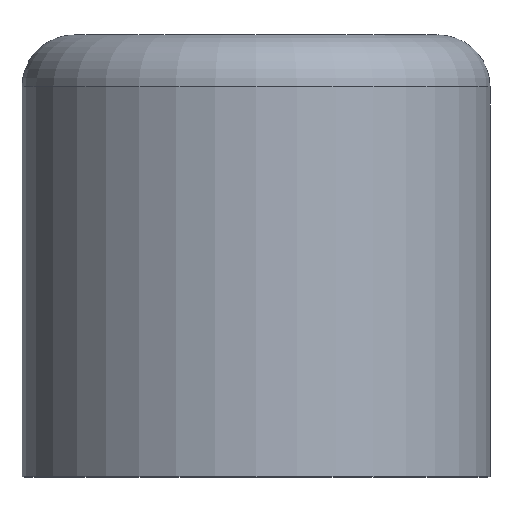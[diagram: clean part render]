
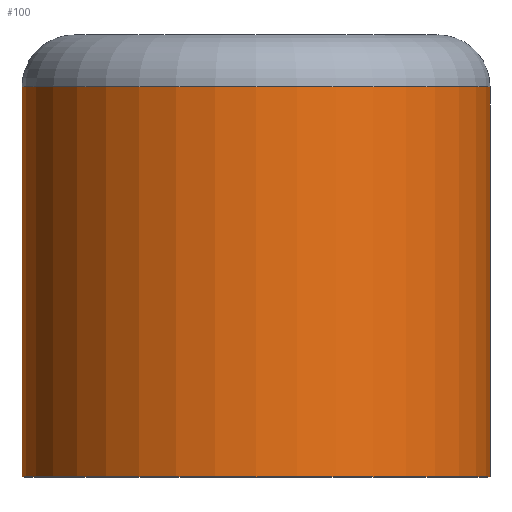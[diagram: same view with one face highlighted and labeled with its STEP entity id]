
A CAD part, top view. The second image highlights one B-rep face of the part: STEP entity #100.
In plain terms, the highlighted cylindrical face has radius 9 mm (diameter 18 mm), a full revolution.
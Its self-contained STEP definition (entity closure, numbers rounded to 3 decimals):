
#18=LINE('',#195,#21);
#21=VECTOR('',#166,9.);
#24=CYLINDRICAL_SURFACE('',#134,9.);
#32=FACE_OUTER_BOUND('',#40,.T.);
#40=EDGE_LOOP('',(#85,#86,#87,#88));
#51=CIRCLE('',#133,9.);
#52=CIRCLE('',#135,9.);
#58=VERTEX_POINT('',#190);
#59=VERTEX_POINT('',#194);
#68=EDGE_CURVE('',#58,#58,#51,.T.);
#69=EDGE_CURVE('',#58,#59,#18,.T.);
#70=EDGE_CURVE('',#59,#59,#52,.T.);
#85=ORIENTED_EDGE('',*,*,#68,.F.);
#86=ORIENTED_EDGE('',*,*,#69,.T.);
#87=ORIENTED_EDGE('',*,*,#70,.T.);
#88=ORIENTED_EDGE('',*,*,#69,.F.);
#100=ADVANCED_FACE('',(#32),#24,.T.);
#133=AXIS2_PLACEMENT_3D('',#192,#162,#163);
#134=AXIS2_PLACEMENT_3D('',#193,#164,#165);
#135=AXIS2_PLACEMENT_3D('',#196,#167,#168);
#162=DIRECTION('center_axis',(0.,1.,0.));
#163=DIRECTION('ref_axis',(0.,0.,-1.));
#164=DIRECTION('center_axis',(0.,1.,0.));
#165=DIRECTION('ref_axis',(0.,0.,1.));
#166=DIRECTION('',(0.,-1.,0.));
#167=DIRECTION('center_axis',(0.,1.,0.));
#168=DIRECTION('ref_axis',(1.,0.,0.));
#190=CARTESIAN_POINT('',(0.,15.,-9.));
#192=CARTESIAN_POINT('Origin',(0.,15.,0.));
#193=CARTESIAN_POINT('Origin',(0.,8.5,0.));
#194=CARTESIAN_POINT('',(0.,0.,-9.));
#195=CARTESIAN_POINT('',(0.,8.5,-9.));
#196=CARTESIAN_POINT('Origin',(0.,0.,0.));
